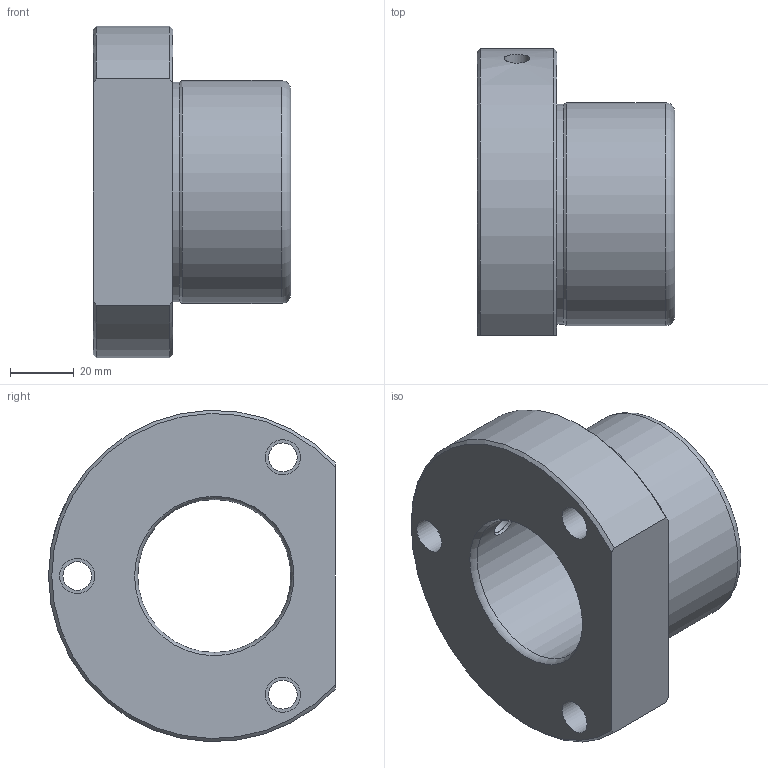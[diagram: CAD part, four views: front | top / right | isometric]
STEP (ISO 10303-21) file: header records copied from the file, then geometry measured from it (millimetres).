
FILE_DESCRIPTION(/* description */ ('Impex Ready, www.impex-ready.pl'),/* implementation_level */ '2;1');
FILE_NAME(/* name */ 'C:\Users\VIKKY\Nextcloud\SM\projekt 10 - części na stronę internetową\Pliki_3D_new\275 Tuleje B5BA\275 B5BA_STEP\B5BA48-4.ipt.step',/* time_stamp */ '2022-01-19T06:19:17+01:00',/* author */ ('SM'),/* organization */ (''),/* preprocessor_version */ 'ST-DEVELOPER v18.1',/* originating_system */ 'Autodesk Inventor 2021',/* authorisation */ '');
FILE_SCHEMA (('AUTOMOTIVE_DESIGN { 1 0 10303 214 3 1 1 }'));
Length unit declared in the file: millimetre
Products named in the file (1): B5BA48-4
Bounding box: 62 x 90 x 103.94 mm (x, y, z)
Volume: 217326.4 mm3; surface area: 58705.7 mm2
Topology: 2 solids, 2 shells, 27 faces, 61 edges, 40 vertices
Faces by surface type: cylinder 14, plane 7, torus 3, cone 3
Full cylindrical faces by diameter (mm): 8 x2, 9 x3, 11 x3, 48 x1, 50 x2, 69 x1, 70 x1
Entity records: 1018 total; most frequent: CARTESIAN_POINT 274, DIRECTION 136, ORIENTED_EDGE 122, EDGE_CURVE 61, AXIS2_PLACEMENT_3D 59, EDGE_LOOP 43, VERTEX_POINT 40, CIRCLE 31
